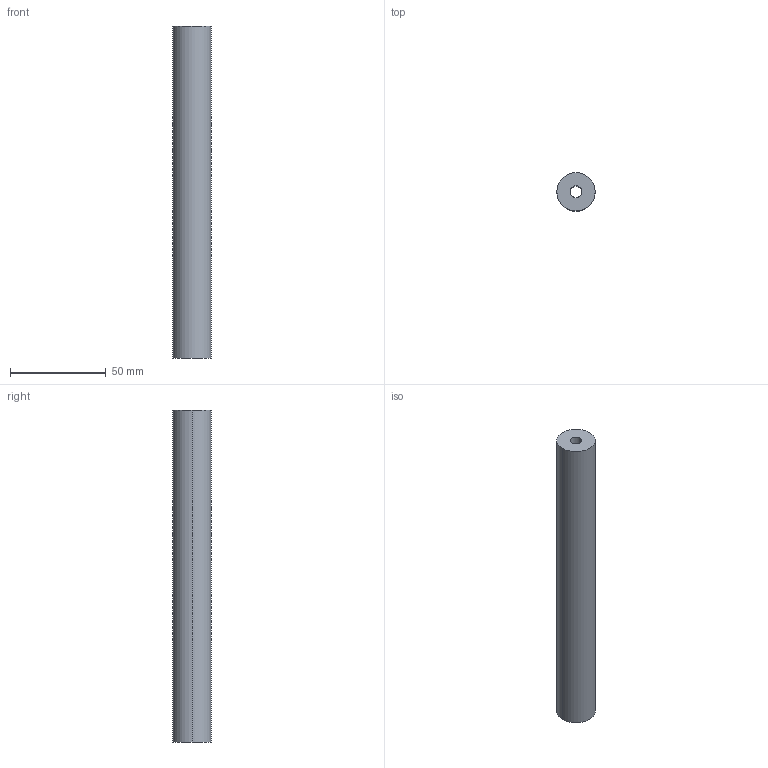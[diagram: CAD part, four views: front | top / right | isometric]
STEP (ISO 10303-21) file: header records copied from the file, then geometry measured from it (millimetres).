
FILE_DESCRIPTION((''),'2;1');
FILE_NAME('0000187246','2024-02-27T13:35:15',('Wyndorps'),(''),'CREO PARAMETRIC BY PTC INC, 2022484','CREO PARAMETRIC BY PTC INC, 2022484','');
FILE_SCHEMA(('CONFIG_CONTROL_DESIGN'));
Length unit declared in the file: millimetre
Products named in the file (1): 0000187246
Bounding box: 20 x 20 x 173 mm (x, y, z)
Volume: 49126.6 mm3; surface area: 14807.5 mm2
Topology: 1 solids, 1 shells, 6 faces, 12 edges, 8 vertices
Faces by surface type: cylinder 4, plane 2
Entity records: 206 total; most frequent: DIRECTION 32, CARTESIAN_POINT 26, ORIENTED_EDGE 24, AXIS2_PLACEMENT_3D 14, EDGE_CURVE 12, VERTEX_POINT 8, EDGE_LOOP 8, CIRCLE 8
